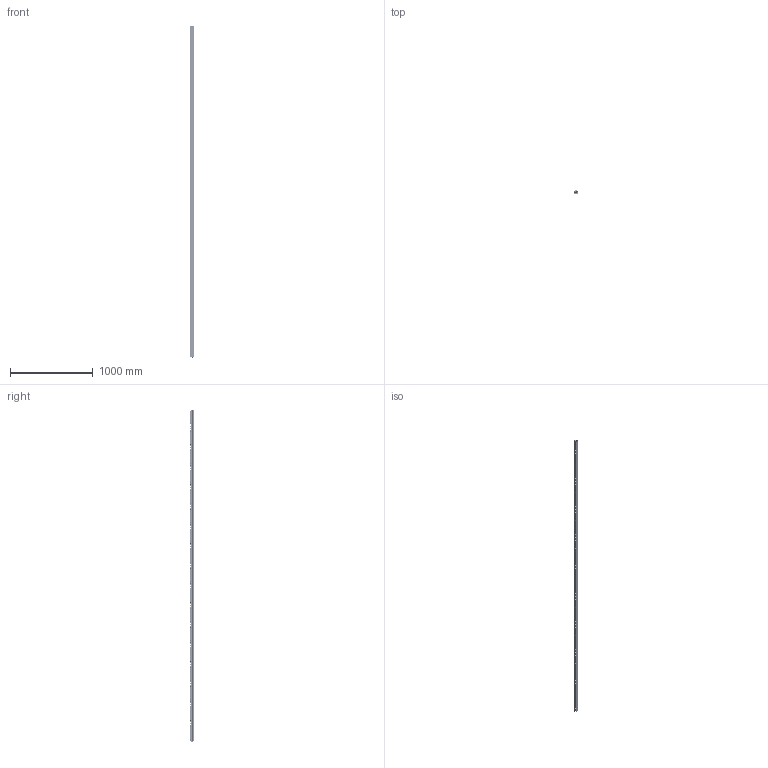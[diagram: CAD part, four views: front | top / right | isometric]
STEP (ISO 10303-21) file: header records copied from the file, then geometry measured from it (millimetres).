
FILE_DESCRIPTION (( 'STEP AP203' ), '1' );
FILE_NAME ('015.200.008.STEP', '2016-10-24T08:35:05', ( '' ), ( '' ), 'SwSTEP 2.0', 'SolidWorks 2016', '' );
FILE_SCHEMA (( 'CONFIG_CONTROL_DESIGN' ));
Length unit declared in the file: millimetre
Products named in the file (3): 015.200.008; 015.200.008_1; 015.200.008_2_100<A macchina>
Assembly tree (174 placements, depth 2):
  015.200.008
    015.200.008_2_100<A macchina>
    015.200.008_1  x173
Bounding box: 41 x 43.48 x 4011.92 mm (x, y, z)
Volume: 1311362.6 mm3; surface area: 1842525.7 mm2
Topology: 520 solids, 520 shells, 19476 faces, 54282 edges, 35496 vertices
Faces by surface type: plane 11462, cylinder 5938, torus 2076
Entity records: 210063 total; most frequent: DIRECTION 37088, ORIENTED_EDGE 36324, CARTESIAN_POINT 35815, EDGE_CURVE 18162, AXIS2_PLACEMENT_3D 13377, VERTEX_POINT 12104, LINE 10334, VECTOR 10334
